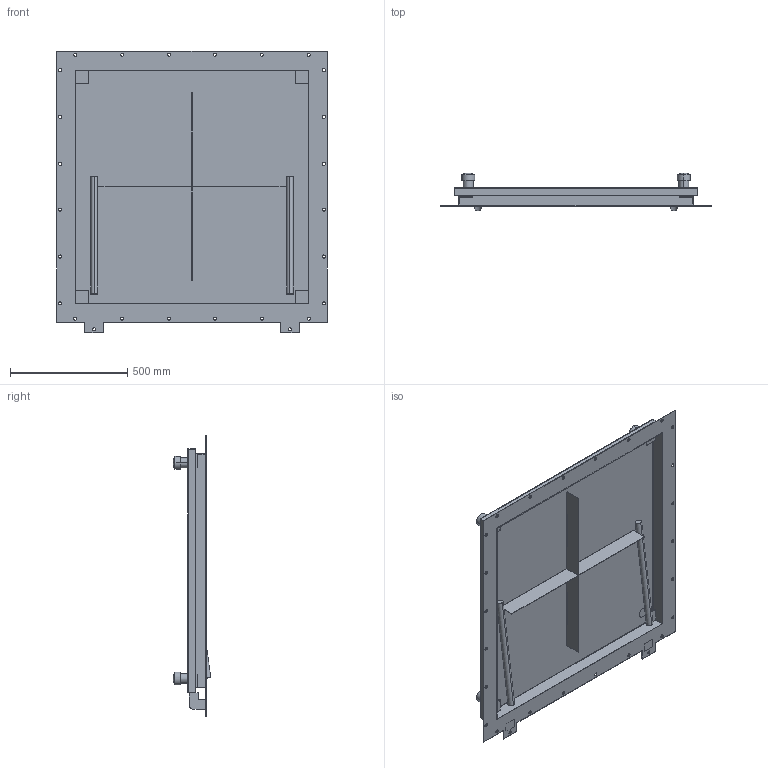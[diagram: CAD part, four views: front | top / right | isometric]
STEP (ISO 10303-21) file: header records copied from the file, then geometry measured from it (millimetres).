
FILE_DESCRIPTION((''),'2;1');
FILE_NAME('51539505','2020-10-02T06:48:44',('slc'),('HUBER SE'),'CREO PARAMETRIC BY PTC INC, 2019224','CREO PARAMETRIC BY PTC INC, 2019224','');
FILE_SCHEMA(('AUTOMOTIVE_DESIGN { 1 0 10303 214 1 1 1 1 }'));
Length unit declared in the file: millimetre
Products named in the file (1): 51539505
Bounding box: 1155 x 159.88 x 1200 mm (x, y, z)
Volume: 5259589 mm3; surface area: 3987725.9 mm2
Topology: 3 solids, 3 shells, 167 faces, 450 edges, 292 vertices
Faces by surface type: plane 85, cylinder 74, sphere 8
Entity records: 5829 total; most frequent: DIRECTION 932, CARTESIAN_POINT 903, ORIENTED_EDGE 884, EDGE_CURVE 442, AXIS2_PLACEMENT_3D 323, VERTEX_POINT 292, VECTOR 286, LINE 286
